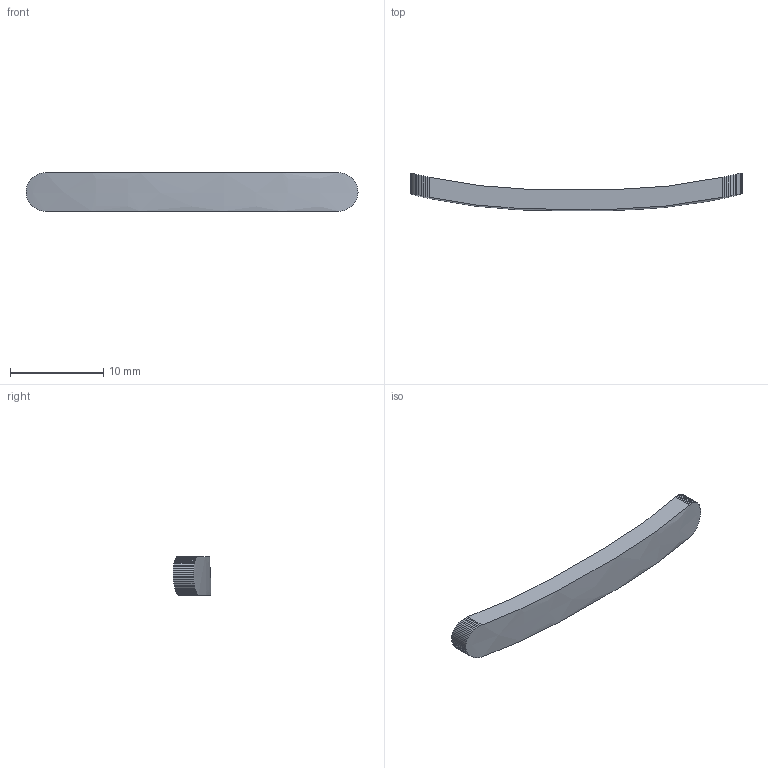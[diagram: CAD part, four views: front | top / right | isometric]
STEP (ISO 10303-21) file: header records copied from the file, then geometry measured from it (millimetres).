
FILE_DESCRIPTION(('Open CASCADE Model'),'2;1');
FILE_NAME('Open CASCADE Shape Model','2026-11-11T21:38:40',('Author'),( 'Open CASCADE'),'Open CASCADE STEP processor 8.0','build123d', 'Unknown');
FILE_SCHEMA(('AUTOMOTIVE_DESIGN { 1 0 10303 214 1 1 1 1 }'));
Length unit declared in the file: millimetre
Products named in the file (1): SOLID
Bounding box: 35.6 x 4.05 x 4.1 mm (x, y, z)
Volume: 301.4 mm3; surface area: 448 mm2
Topology: 1 solids, 1 shells, 68 faces, 198 edges, 132 vertices
Faces by surface type: plane 66, offset 2
Entity records: 31661 total; most frequent: CARTESIAN_POINT 28864, B_SPLINE_CURVE_WITH_KNOTS 594, ORIENTED_EDGE 396, PCURVE 396, DEFINITIONAL_REPRESENTATION 396, EDGE_CURVE 198, SURFACE_CURVE 198, DIRECTION 134
